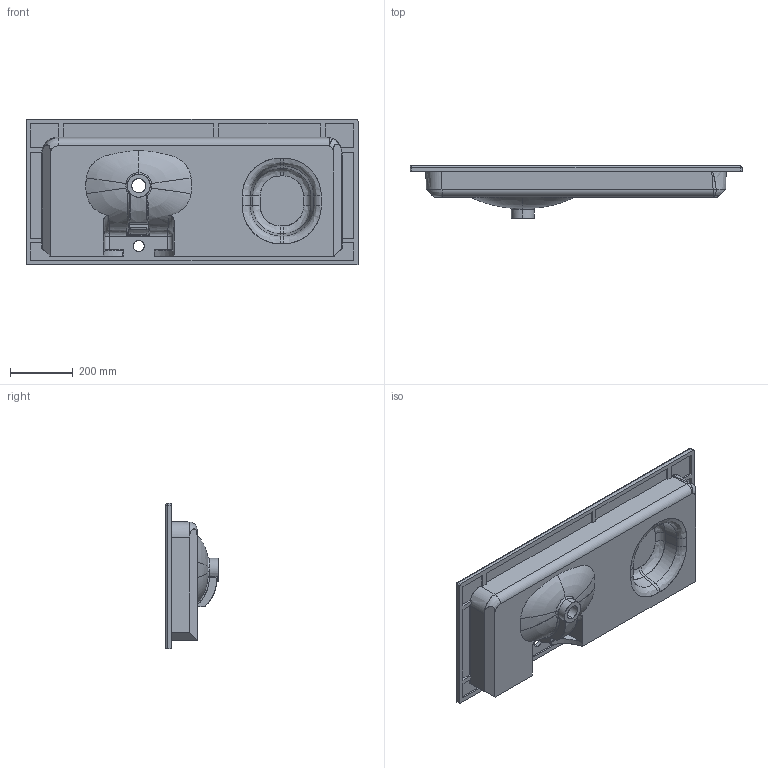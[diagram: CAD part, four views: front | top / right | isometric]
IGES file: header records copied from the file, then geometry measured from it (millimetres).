
Start section: SolidWorks IGES file using NURBS representation for surfaces
Global section: file name: E:\Soft\lavabi definitivi soft 46 m\soft 106 x 465 sx  art..IGS; native system: SolidWorks 2016; preprocessor: SolidWorks 2016; author: User; date: 210209.103659; units: millimetre
Bounding box: 1060 x 168 x 465 mm (x, y, z)
Surface area: 1389419.3 mm2 (no closed solid volume)
Topology: 0 solids, 0 shells, 168 faces, 2355 edges, 2351 vertices
Faces by surface type: bspline 168
